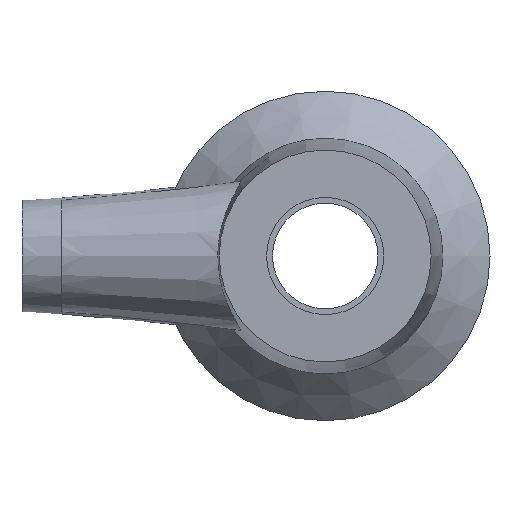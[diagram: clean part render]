
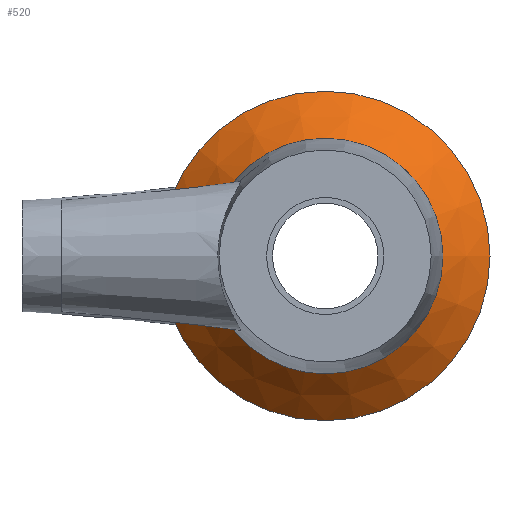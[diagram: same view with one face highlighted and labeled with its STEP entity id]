
A CAD part, left-side view. The second image highlights one B-rep face of the part: STEP entity #520.
In plain terms, the highlighted conical face has half-angle 45 degrees and reference radius 19.05 mm.
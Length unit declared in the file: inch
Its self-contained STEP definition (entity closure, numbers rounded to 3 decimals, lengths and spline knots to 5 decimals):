
#24=CONICAL_SURFACE('',#588,0.75,0.785);
#48=LINE('',#976,#67);
#67=VECTOR('',#715,0.75);
#104=FACE_OUTER_BOUND('',#140,.T.);
#140=EDGE_LOOP('',(#393,#394,#395,#396,#397,#398));
#177=CIRCLE('',#584,0.625);
#178=CIRCLE('',#585,0.625);
#181=CIRCLE('',#589,0.875);
#182=CIRCLE('',#590,0.875);
#232=VERTEX_POINT('',#963);
#233=VERTEX_POINT('',#964);
#235=VERTEX_POINT('',#972);
#236=VERTEX_POINT('',#973);
#293=EDGE_CURVE('',#232,#233,#177,.T.);
#294=EDGE_CURVE('',#233,#232,#178,.T.);
#298=EDGE_CURVE('',#235,#236,#181,.T.);
#299=EDGE_CURVE('',#236,#235,#182,.T.);
#300=EDGE_CURVE('',#236,#233,#48,.T.);
#393=ORIENTED_EDGE('',*,*,#298,.F.);
#394=ORIENTED_EDGE('',*,*,#299,.F.);
#395=ORIENTED_EDGE('',*,*,#300,.T.);
#396=ORIENTED_EDGE('',*,*,#294,.T.);
#397=ORIENTED_EDGE('',*,*,#293,.T.);
#398=ORIENTED_EDGE('',*,*,#300,.F.);
#520=ADVANCED_FACE('',(#104),#24,.T.);
#584=AXIS2_PLACEMENT_3D('',#965,#700,#701);
#585=AXIS2_PLACEMENT_3D('',#966,#702,#703);
#588=AXIS2_PLACEMENT_3D('',#971,#709,#710);
#589=AXIS2_PLACEMENT_3D('',#974,#711,#712);
#590=AXIS2_PLACEMENT_3D('',#975,#713,#714);
#700=DIRECTION('center_axis',(1.,0.,0.));
#701=DIRECTION('ref_axis',(0.,0.,-1.));
#702=DIRECTION('center_axis',(1.,0.,0.));
#703=DIRECTION('ref_axis',(0.,0.,-1.));
#709=DIRECTION('center_axis',(1.,0.,0.));
#710=DIRECTION('ref_axis',(0.,1.,0.));
#711=DIRECTION('center_axis',(1.,0.,0.));
#712=DIRECTION('ref_axis',(0.,0.,-1.));
#713=DIRECTION('center_axis',(1.,0.,0.));
#714=DIRECTION('ref_axis',(0.,0.,-1.));
#715=DIRECTION('',(-0.707,0.707,0.));
#963=CARTESIAN_POINT('',(-0.37775,0.625,0.));
#964=CARTESIAN_POINT('',(-0.37775,-0.625,0.));
#965=CARTESIAN_POINT('Origin',(-0.37775,0.,0.));
#966=CARTESIAN_POINT('Origin',(-0.37775,0.,0.));
#971=CARTESIAN_POINT('Origin',(-0.25275,0.,0.));
#972=CARTESIAN_POINT('',(-0.12775,0.875,0.));
#973=CARTESIAN_POINT('',(-0.12775,-0.875,0.));
#974=CARTESIAN_POINT('Origin',(-0.12775,0.,0.));
#975=CARTESIAN_POINT('Origin',(-0.12775,0.,0.));
#976=CARTESIAN_POINT('',(-0.25275,-0.75,0.));
